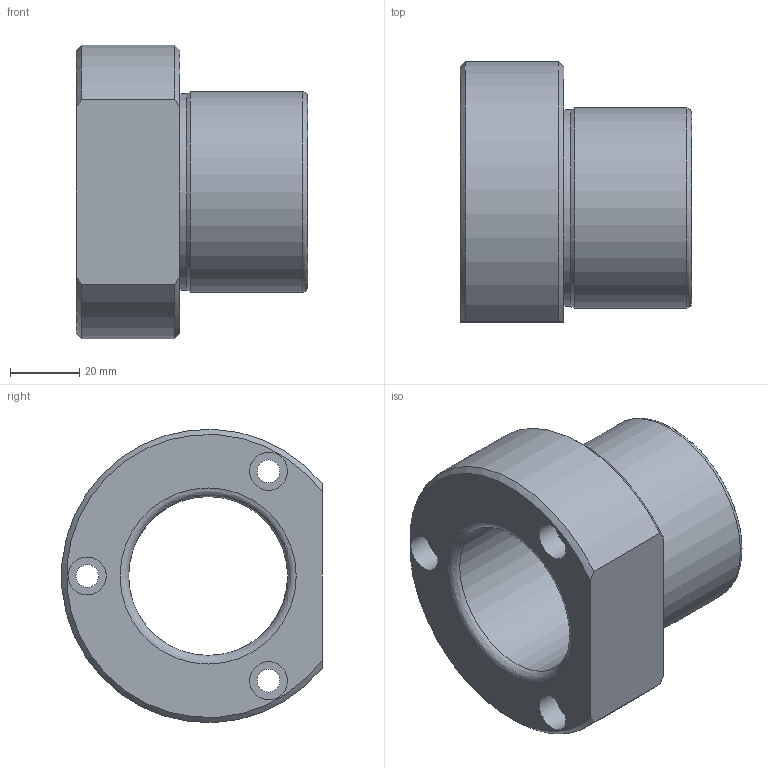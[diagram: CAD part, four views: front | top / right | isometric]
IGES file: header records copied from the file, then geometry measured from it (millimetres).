
Global section: file name: B5AG38-5.ipt; native system: Autodesk Inventor 2021; preprocessor: unknown; author: SM; date: 20211220.141100; units: millimetre
Bounding box: 67 x 75.35 x 84.93 mm (x, y, z)
Volume: 140846.1 mm3; surface area: 32940.7 mm2
Topology: 1 solids, 1 shells, 23 faces, 60 edges, 43 vertices
Faces by surface type: revolution 10, plane 7, cylinder 3, cone 3
Full cylindrical faces by diameter (mm): 57 x1, 58 x1
